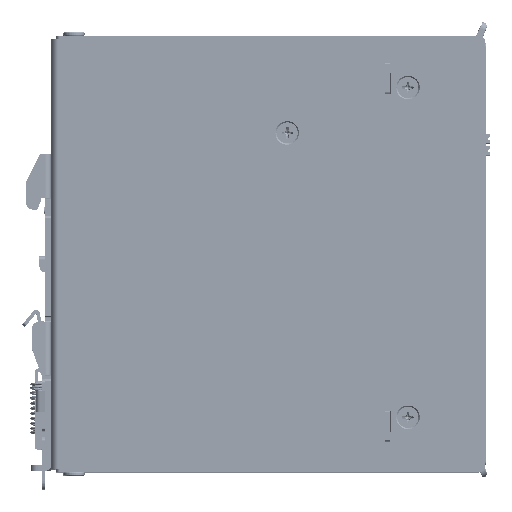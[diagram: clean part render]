
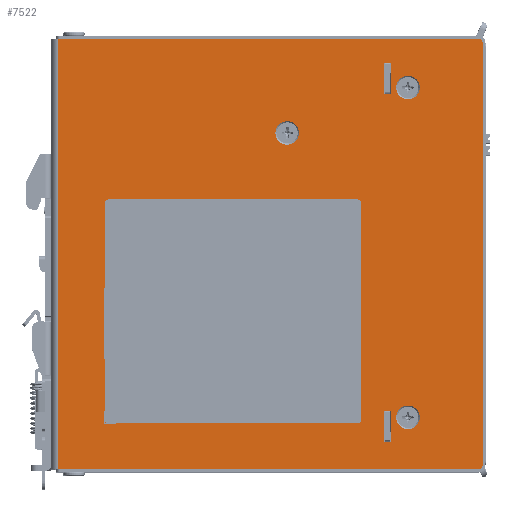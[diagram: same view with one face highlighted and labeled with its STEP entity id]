
A CAD part, top view. The second image highlights one B-rep face of the part: STEP entity #7522.
In plain terms, the highlighted planar face has unit normal (0, 0, 1).
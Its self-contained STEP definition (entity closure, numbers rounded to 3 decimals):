
#1767=DIRECTION('',(0.,-1.,0.));
#1768=VECTOR('',#1767,122.4);
#1769=CARTESIAN_POINT('',(0.5,61.2,25.));
#1770=LINE('',#1769,#1768);
#1781=CARTESIAN_POINT('',(120.1,-60.2,25.));
#1782=DIRECTION('',(0.,0.,-1.));
#1783=DIRECTION('',(1.,0.,0.));
#1784=AXIS2_PLACEMENT_3D('',#1781,#1782,#1783);
#1789=DIRECTION('',(-1.,0.,0.));
#1790=VECTOR('',#1789,119.6);
#1791=CARTESIAN_POINT('',(120.1,-61.2,25.));
#1792=LINE('',#1791,#1790);
#1796=DIRECTION('',(1.,0.,0.));
#1797=VECTOR('',#1796,119.6);
#1798=CARTESIAN_POINT('',(0.5,61.2,25.));
#1799=LINE('',#1798,#1797);
#1803=CARTESIAN_POINT('',(120.1,60.2,25.));
#1804=DIRECTION('',(0.,0.,-1.));
#1805=DIRECTION('',(0.,1.,0.));
#1806=AXIS2_PLACEMENT_3D('',#1803,#1804,#1805);
#1811=DIRECTION('',(0.,-1.,0.));
#1812=VECTOR('',#1811,120.4);
#1813=CARTESIAN_POINT('',(121.1,60.2,25.));
#1814=LINE('',#1813,#1812);
#1818=DIRECTION('',(-1.,0.,0.));
#1819=VECTOR('',#1818,1.9);
#1820=CARTESIAN_POINT('',(95.05,54.3,25.));
#1821=LINE('',#1820,#1819);
#1825=DIRECTION('',(0.,-1.,0.));
#1826=VECTOR('',#1825,8.8);
#1827=CARTESIAN_POINT('',(93.15,54.3,25.));
#1828=LINE('',#1827,#1826);
#1832=DIRECTION('',(1.,0.,0.));
#1833=VECTOR('',#1832,1.9);
#1834=CARTESIAN_POINT('',(93.15,45.5,25.));
#1835=LINE('',#1834,#1833);
#1839=DIRECTION('',(0.,1.,0.));
#1840=VECTOR('',#1839,8.8);
#1841=CARTESIAN_POINT('',(95.05,45.5,25.));
#1842=LINE('',#1841,#1840);
#1846=DIRECTION('',(-1.,0.,0.));
#1847=VECTOR('',#1846,1.9);
#1848=CARTESIAN_POINT('',(95.05,-44.5,25.));
#1849=LINE('',#1848,#1847);
#1853=DIRECTION('',(0.,-1.,0.));
#1854=VECTOR('',#1853,8.8);
#1855=CARTESIAN_POINT('',(93.15,-44.5,25.));
#1856=LINE('',#1855,#1854);
#1860=DIRECTION('',(1.,0.,0.));
#1861=VECTOR('',#1860,1.9);
#1862=CARTESIAN_POINT('',(93.15,-53.3,25.));
#1863=LINE('',#1862,#1861);
#1867=DIRECTION('',(0.,1.,0.));
#1868=VECTOR('',#1867,8.8);
#1869=CARTESIAN_POINT('',(95.05,-53.3,25.));
#1870=LINE('',#1869,#1868);
#1874=CARTESIAN_POINT('',(65.6,34.4,25.));
#1875=DIRECTION('',(0.,0.,1.));
#1876=DIRECTION('',(-1.,0.,0.));
#1877=AXIS2_PLACEMENT_3D('',#1874,#1875,#1876);
#1882=CARTESIAN_POINT('',(65.6,34.4,25.));
#1883=DIRECTION('',(0.,0.,1.));
#1884=DIRECTION('',(1.,0.,0.));
#1885=AXIS2_PLACEMENT_3D('',#1882,#1883,#1884);
#1890=CARTESIAN_POINT('',(99.9,-46.4,25.));
#1891=DIRECTION('',(0.,0.,1.));
#1892=DIRECTION('',(-1.,0.,0.));
#1893=AXIS2_PLACEMENT_3D('',#1890,#1891,#1892);
#1898=CARTESIAN_POINT('',(99.9,-46.4,25.));
#1899=DIRECTION('',(0.,0.,1.));
#1900=DIRECTION('',(1.,0.,0.));
#1901=AXIS2_PLACEMENT_3D('',#1898,#1899,#1900);
#1906=CARTESIAN_POINT('',(99.9,47.3,25.));
#1907=DIRECTION('',(0.,0.,1.));
#1908=DIRECTION('',(-1.,0.,0.));
#1909=AXIS2_PLACEMENT_3D('',#1906,#1907,#1908);
#1914=CARTESIAN_POINT('',(99.9,47.3,25.));
#1915=DIRECTION('',(0.,0.,1.));
#1916=DIRECTION('',(1.,0.,0.));
#1917=AXIS2_PLACEMENT_3D('',#1914,#1915,#1916);
#2358=DIRECTION('',(0.,1.,0.));
#2359=VECTOR('',#2358,20.);
#2360=CARTESIAN_POINT('',(13.5,-29.7,25.));
#2361=LINE('',#2360,#2359);
#2372=DIRECTION('',(1.,0.,0.));
#2373=VECTOR('',#2372,0.2);
#2374=CARTESIAN_POINT('',(13.5,-9.7,25.));
#2375=LINE('',#2374,#2373);
#2386=DIRECTION('',(0.,-1.,0.));
#2387=VECTOR('',#2386,20.);
#2388=CARTESIAN_POINT('',(13.7,-9.7,25.));
#2389=LINE('',#2388,#2387);
#2400=DIRECTION('',(-1.,0.,0.));
#2401=VECTOR('',#2400,0.2);
#2402=CARTESIAN_POINT('',(13.7,-29.7,25.));
#2403=LINE('',#2402,#2401);
#2442=DIRECTION('',(0.,1.,0.));
#2443=VECTOR('',#2442,3.5);
#2444=CARTESIAN_POINT('',(13.5,-48.2,25.));
#2445=LINE('',#2444,#2443);
#2456=DIRECTION('',(1.,0.,0.));
#2457=VECTOR('',#2456,0.2);
#2458=CARTESIAN_POINT('',(13.5,-44.7,25.));
#2459=LINE('',#2458,#2457);
#2470=DIRECTION('',(0.,-1.,0.));
#2471=VECTOR('',#2470,3.3);
#2472=CARTESIAN_POINT('',(13.7,-44.7,25.));
#2473=LINE('',#2472,#2471);
#2484=DIRECTION('',(1.,0.,0.));
#2485=VECTOR('',#2484,3.3);
#2486=CARTESIAN_POINT('',(13.7,-48.,25.));
#2487=LINE('',#2486,#2485);
#2498=DIRECTION('',(0.,-1.,0.));
#2499=VECTOR('',#2498,0.2);
#2500=CARTESIAN_POINT('',(17.,-48.,25.));
#2501=LINE('',#2500,#2499);
#2512=DIRECTION('',(-1.,0.,0.));
#2513=VECTOR('',#2512,3.5);
#2514=CARTESIAN_POINT('',(17.,-48.2,25.));
#2515=LINE('',#2514,#2513);
#6081=CARTESIAN_POINT('',(0.5,61.2,25.));
#6082=VERTEX_POINT('',#6081);
#6085=CARTESIAN_POINT('',(0.5,-61.2,25.));
#6086=VERTEX_POINT('',#6085);
#6087=CARTESIAN_POINT('',(121.1,-60.2,25.));
#6088=CARTESIAN_POINT('',(120.1,-61.2,25.));
#6089=VERTEX_POINT('',#6087);
#6090=VERTEX_POINT('',#6088);
#6091=CARTESIAN_POINT('',(120.1,61.2,25.));
#6092=VERTEX_POINT('',#6091);
#6093=CARTESIAN_POINT('',(121.1,60.2,25.));
#6094=VERTEX_POINT('',#6093);
#6095=CARTESIAN_POINT('',(95.05,54.3,25.));
#6096=CARTESIAN_POINT('',(93.15,54.3,25.));
#6097=VERTEX_POINT('',#6095);
#6098=VERTEX_POINT('',#6096);
#6099=CARTESIAN_POINT('',(93.15,45.5,25.));
#6100=VERTEX_POINT('',#6099);
#6101=CARTESIAN_POINT('',(95.05,45.5,25.));
#6102=VERTEX_POINT('',#6101);
#6103=CARTESIAN_POINT('',(95.05,-44.5,25.));
#6104=CARTESIAN_POINT('',(93.15,-44.5,25.));
#6105=VERTEX_POINT('',#6103);
#6106=VERTEX_POINT('',#6104);
#6107=CARTESIAN_POINT('',(93.15,-53.3,25.));
#6108=VERTEX_POINT('',#6107);
#6109=CARTESIAN_POINT('',(95.05,-53.3,25.));
#6110=VERTEX_POINT('',#6109);
#6111=CARTESIAN_POINT('',(13.5,-29.7,25.));
#6112=CARTESIAN_POINT('',(13.5,-9.7,25.));
#6113=VERTEX_POINT('',#6111);
#6114=VERTEX_POINT('',#6112);
#6115=CARTESIAN_POINT('',(13.7,-29.7,25.));
#6116=VERTEX_POINT('',#6115);
#6117=CARTESIAN_POINT('',(13.7,-9.7,25.));
#6118=VERTEX_POINT('',#6117);
#6119=CARTESIAN_POINT('',(13.5,-48.2,25.));
#6120=CARTESIAN_POINT('',(13.5,-44.7,25.));
#6121=VERTEX_POINT('',#6119);
#6122=VERTEX_POINT('',#6120);
#6123=CARTESIAN_POINT('',(17.,-48.2,25.));
#6124=VERTEX_POINT('',#6123);
#6125=CARTESIAN_POINT('',(17.,-48.,25.));
#6126=VERTEX_POINT('',#6125);
#6127=CARTESIAN_POINT('',(13.7,-48.,25.));
#6128=VERTEX_POINT('',#6127);
#6129=CARTESIAN_POINT('',(13.7,-44.7,25.));
#6130=VERTEX_POINT('',#6129);
#6131=CARTESIAN_POINT('',(62.25,34.4,25.));
#6132=CARTESIAN_POINT('',(68.95,34.4,25.));
#6133=VERTEX_POINT('',#6131);
#6134=VERTEX_POINT('',#6132);
#6135=CARTESIAN_POINT('',(96.55,-46.4,25.));
#6136=CARTESIAN_POINT('',(103.25,-46.4,25.));
#6137=VERTEX_POINT('',#6135);
#6138=VERTEX_POINT('',#6136);
#6139=CARTESIAN_POINT('',(96.55,47.3,25.));
#6140=CARTESIAN_POINT('',(103.25,47.3,25.));
#6141=VERTEX_POINT('',#6139);
#6142=VERTEX_POINT('',#6140);
#7442=CARTESIAN_POINT('',(-1.5,-61.2,25.));
#7443=DIRECTION('',(0.,0.,1.));
#7444=DIRECTION('',(0.,-1.,0.));
#7445=AXIS2_PLACEMENT_3D('',#7442,#7443,#7444);
#7446=PLANE('',#7445);
#7448=ORIENTED_EDGE('',*,*,#7447,.T.);
#7450=ORIENTED_EDGE('',*,*,#7449,.T.);
#7451=ORIENTED_EDGE('',*,*,#7433,.F.);
#7453=ORIENTED_EDGE('',*,*,#7452,.T.);
#7455=ORIENTED_EDGE('',*,*,#7454,.T.);
#7457=ORIENTED_EDGE('',*,*,#7456,.T.);
#7458=EDGE_LOOP('',(#7448,#7450,#7451,#7453,#7455,#7457));
#7459=FACE_OUTER_BOUND('',#7458,.F.);
#7461=ORIENTED_EDGE('',*,*,#7460,.T.);
#7463=ORIENTED_EDGE('',*,*,#7462,.T.);
#7465=ORIENTED_EDGE('',*,*,#7464,.T.);
#7467=ORIENTED_EDGE('',*,*,#7466,.T.);
#7468=EDGE_LOOP('',(#7461,#7463,#7465,#7467));
#7469=FACE_BOUND('',#7468,.F.);
#7471=ORIENTED_EDGE('',*,*,#7470,.T.);
#7473=ORIENTED_EDGE('',*,*,#7472,.T.);
#7475=ORIENTED_EDGE('',*,*,#7474,.T.);
#7477=ORIENTED_EDGE('',*,*,#7476,.T.);
#7478=EDGE_LOOP('',(#7471,#7473,#7475,#7477));
#7479=FACE_BOUND('',#7478,.F.);
#7481=ORIENTED_EDGE('',*,*,#7480,.F.);
#7483=ORIENTED_EDGE('',*,*,#7482,.F.);
#7485=ORIENTED_EDGE('',*,*,#7484,.F.);
#7487=ORIENTED_EDGE('',*,*,#7486,.F.);
#7488=EDGE_LOOP('',(#7481,#7483,#7485,#7487));
#7489=FACE_BOUND('',#7488,.F.);
#7491=ORIENTED_EDGE('',*,*,#7490,.F.);
#7493=ORIENTED_EDGE('',*,*,#7492,.F.);
#7495=ORIENTED_EDGE('',*,*,#7494,.F.);
#7497=ORIENTED_EDGE('',*,*,#7496,.F.);
#7499=ORIENTED_EDGE('',*,*,#7498,.F.);
#7501=ORIENTED_EDGE('',*,*,#7500,.F.);
#7502=EDGE_LOOP('',(#7491,#7493,#7495,#7497,#7499,#7501));
#7503=FACE_BOUND('',#7502,.F.);
#7505=ORIENTED_EDGE('',*,*,#7504,.T.);
#7507=ORIENTED_EDGE('',*,*,#7506,.T.);
#7508=EDGE_LOOP('',(#7505,#7507));
#7509=FACE_BOUND('',#7508,.F.);
#7511=ORIENTED_EDGE('',*,*,#7510,.T.);
#7513=ORIENTED_EDGE('',*,*,#7512,.T.);
#7514=EDGE_LOOP('',(#7511,#7513));
#7515=FACE_BOUND('',#7514,.F.);
#7517=ORIENTED_EDGE('',*,*,#7516,.T.);
#7519=ORIENTED_EDGE('',*,*,#7518,.T.);
#7520=EDGE_LOOP('',(#7517,#7519));
#7521=FACE_BOUND('',#7520,.F.);
#7522=ADVANCED_FACE('',(#7459,#7469,#7479,#7489,#7503,#7509,#7515,#7521),#7446,
.T.);
#1785=CIRCLE('',#1784,1.);
#1807=CIRCLE('',#1806,1.);
#1878=CIRCLE('',#1877,3.35);
#1886=CIRCLE('',#1885,3.35);
#1894=CIRCLE('',#1893,3.35);
#1902=CIRCLE('',#1901,3.35);
#1910=CIRCLE('',#1909,3.35);
#1918=CIRCLE('',#1917,3.35);
#7433=EDGE_CURVE('',#6082,#6086,#1770,.T.);
#7447=EDGE_CURVE('',#6089,#6090,#1785,.T.);
#7449=EDGE_CURVE('',#6090,#6086,#1792,.T.);
#7452=EDGE_CURVE('',#6082,#6092,#1799,.T.);
#7454=EDGE_CURVE('',#6092,#6094,#1807,.T.);
#7456=EDGE_CURVE('',#6094,#6089,#1814,.T.);
#7460=EDGE_CURVE('',#6097,#6098,#1821,.T.);
#7462=EDGE_CURVE('',#6098,#6100,#1828,.T.);
#7464=EDGE_CURVE('',#6100,#6102,#1835,.T.);
#7466=EDGE_CURVE('',#6102,#6097,#1842,.T.);
#7470=EDGE_CURVE('',#6105,#6106,#1849,.T.);
#7472=EDGE_CURVE('',#6106,#6108,#1856,.T.);
#7474=EDGE_CURVE('',#6108,#6110,#1863,.T.);
#7476=EDGE_CURVE('',#6110,#6105,#1870,.T.);
#7480=EDGE_CURVE('',#6113,#6114,#2361,.T.);
#7482=EDGE_CURVE('',#6116,#6113,#2403,.T.);
#7484=EDGE_CURVE('',#6118,#6116,#2389,.T.);
#7486=EDGE_CURVE('',#6114,#6118,#2375,.T.);
#7490=EDGE_CURVE('',#6121,#6122,#2445,.T.);
#7492=EDGE_CURVE('',#6124,#6121,#2515,.T.);
#7494=EDGE_CURVE('',#6126,#6124,#2501,.T.);
#7496=EDGE_CURVE('',#6128,#6126,#2487,.T.);
#7498=EDGE_CURVE('',#6130,#6128,#2473,.T.);
#7500=EDGE_CURVE('',#6122,#6130,#2459,.T.);
#7504=EDGE_CURVE('',#6133,#6134,#1878,.T.);
#7506=EDGE_CURVE('',#6134,#6133,#1886,.T.);
#7510=EDGE_CURVE('',#6137,#6138,#1894,.T.);
#7512=EDGE_CURVE('',#6138,#6137,#1902,.T.);
#7516=EDGE_CURVE('',#6141,#6142,#1910,.T.);
#7518=EDGE_CURVE('',#6142,#6141,#1918,.T.);
